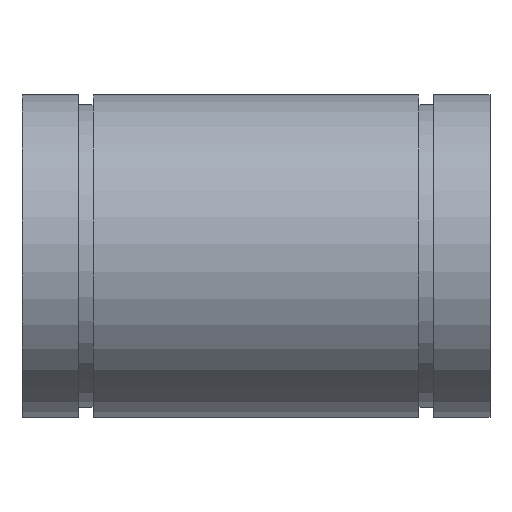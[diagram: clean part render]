
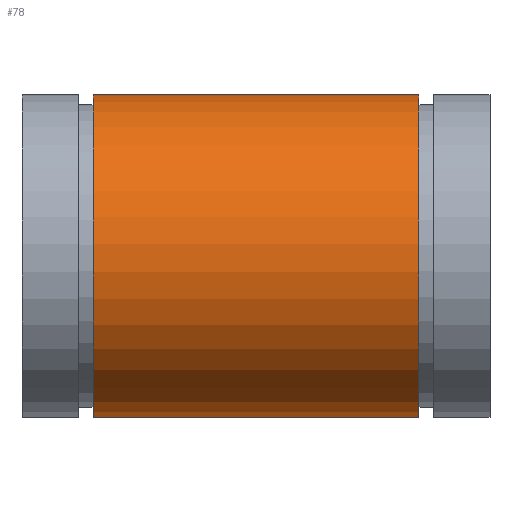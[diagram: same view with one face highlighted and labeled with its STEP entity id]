
A CAD part, front view. The second image highlights one B-rep face of the part: STEP entity #78.
In plain terms, the highlighted cylindrical face has radius 20 mm (diameter 40 mm), a partial arc.
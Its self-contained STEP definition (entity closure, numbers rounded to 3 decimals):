
#78 = ADVANCED_FACE( '', ( #96 ), #97, .T. );
#96 = FACE_OUTER_BOUND( '', #124, .T. );
#97 = CYLINDRICAL_SURFACE( '', #125, 20. );
#124 = EDGE_LOOP( '', ( #167, #168, #169, #170 ) );
#125 = AXIS2_PLACEMENT_3D( '', #171, #172, #173 );
#167 = ORIENTED_EDGE( '', *, *, #271, .T. );
#168 = ORIENTED_EDGE( '', *, *, #272, .T. );
#169 = ORIENTED_EDGE( '', *, *, #273, .F. );
#170 = ORIENTED_EDGE( '', *, *, #274, .T. );
#171 = CARTESIAN_POINT( '', ( 58., 0., 0. ) );
#172 = DIRECTION( '', ( -1., 0., 0. ) );
#173 = DIRECTION( '', ( 0., 0., -1. ) );
#271 = EDGE_CURVE( '', #317, #318, #319, .T. );
#272 = EDGE_CURVE( '', #318, #320, #321, .T. );
#273 = EDGE_CURVE( '', #322, #320, #323, .T. );
#274 = EDGE_CURVE( '', #322, #317, #324, .F. );
#317 = VERTEX_POINT( '', #383 );
#318 = VERTEX_POINT( '', #384 );
#319 = CIRCLE( '', #385, 20. );
#320 = VERTEX_POINT( '', #386 );
#321 = LINE( '', #387, #388 );
#322 = VERTEX_POINT( '', #389 );
#323 = CIRCLE( '', #390, 20. );
#324 = LINE( '', #391, #392 );
#383 = CARTESIAN_POINT( '', ( 8.8, 13.417, 14.832 ) );
#384 = CARTESIAN_POINT( '', ( 8.8, 14.832, 13.417 ) );
#385 = AXIS2_PLACEMENT_3D( '', #461, #462, #463 );
#386 = CARTESIAN_POINT( '', ( 49.2, 14.832, 13.417 ) );
#387 = CARTESIAN_POINT( '', ( 58., 14.832, 13.417 ) );
#388 = VECTOR( '', #464, 1000. );
#389 = CARTESIAN_POINT( '', ( 49.2, 13.417, 14.832 ) );
#390 = AXIS2_PLACEMENT_3D( '', #465, #466, #467 );
#391 = CARTESIAN_POINT( '', ( 58., 13.417, 14.832 ) );
#392 = VECTOR( '', #468, 1000. );
#461 = CARTESIAN_POINT( '', ( 8.8, 0., 0. ) );
#462 = DIRECTION( '', ( 1., 0., 0. ) );
#463 = DIRECTION( '', ( 0., 0., -1. ) );
#464 = DIRECTION( '', ( 1., 0., 0. ) );
#465 = CARTESIAN_POINT( '', ( 49.2, 0., 0. ) );
#466 = DIRECTION( '', ( 1., 0., 0. ) );
#467 = DIRECTION( '', ( 0., 0., -1. ) );
#468 = DIRECTION( '', ( 1., 0., 0. ) );
